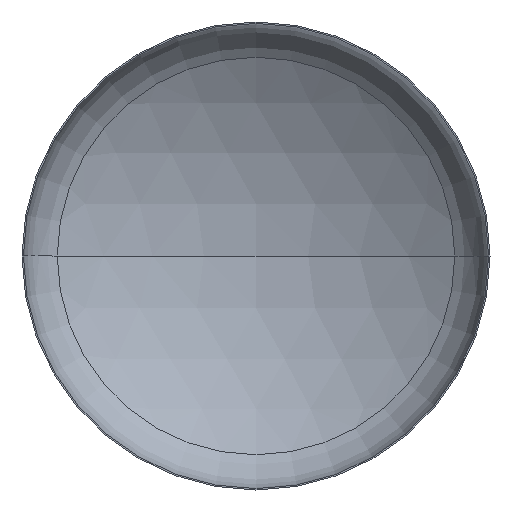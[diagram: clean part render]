
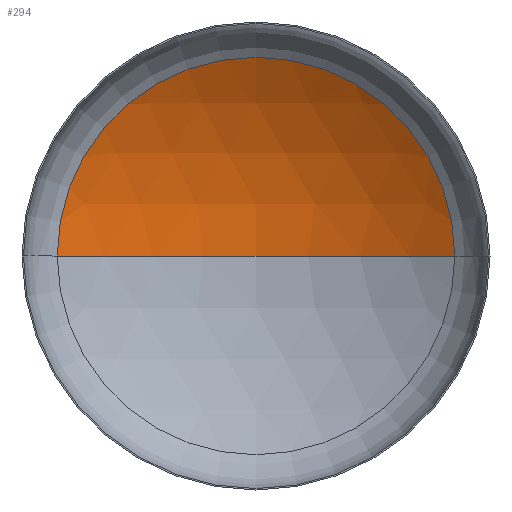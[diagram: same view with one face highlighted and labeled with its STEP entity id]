
A CAD part, front view. The second image highlights one B-rep face of the part: STEP entity #294.
In plain terms, the highlighted spherical face has radius 4800 mm.
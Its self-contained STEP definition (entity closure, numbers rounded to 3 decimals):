
#6 = DIRECTION ( 'NONE',  ( 0., 0., -1. ) ) ;
#11 = CARTESIAN_POINT ( 'NONE',  ( 0., -3228.957, 0. ) ) ;
#16 = ORIENTED_EDGE ( 'NONE', *, *, #192, .T. ) ;
#18 = VERTEX_POINT ( 'NONE', #332 ) ;
#21 = ORIENTED_EDGE ( 'NONE', *, *, #195, .T. ) ;
#39 = VERTEX_POINT ( 'NONE', #315 ) ;
#49 = ORIENTED_EDGE ( 'NONE', *, *, #198, .F. ) ;
#70 = DIRECTION ( 'NONE',  ( 1., 0., 0. ) ) ;
#76 = DIRECTION ( 'NONE',  ( 0., -1., 0. ) ) ;
#78 = AXIS2_PLACEMENT_3D ( 'NONE', #209, #211, #288 ) ;
#82 = EDGE_LOOP ( 'NONE', ( #49, #21, #16 ) ) ;
#84 = VERTEX_POINT ( 'NONE', #247 ) ;
#94 = CARTESIAN_POINT ( 'NONE',  ( 0., 838.912, 0. ) ) ;
#100 = DIRECTION ( 'NONE',  ( 1., 0., 0. ) ) ;
#107 = DIRECTION ( 'NONE',  ( -1., 0., 0. ) ) ;
#125 = SPHERICAL_SURFACE ( 'NONE', #78, 4800. ) ;
#129 = AXIS2_PLACEMENT_3D ( 'NONE', #252, #284, #100 ) ;
#132 = AXIS2_PLACEMENT_3D ( 'NONE', #11, #6, #107 ) ;
#134 = AXIS2_PLACEMENT_3D ( 'NONE', #94, #76, #70 ) ;
#168 = CIRCLE ( 'NONE', #129, 4800. ) ;
#192 = EDGE_CURVE ( 'NONE', #39, #84, #305, .T. ) ;
#195 = EDGE_CURVE ( 'NONE', #18, #39, #410, .T. ) ;
#198 = EDGE_CURVE ( 'NONE', #18, #84, #168, .T. ) ;
#209 = CARTESIAN_POINT ( 'NONE',  ( 0., -3228.957, 0. ) ) ;
#211 = DIRECTION ( 'NONE',  ( 0., 0., -1. ) ) ;
#247 = CARTESIAN_POINT ( 'NONE',  ( -2548.026, 838.912, 0. ) ) ;
#252 = CARTESIAN_POINT ( 'NONE',  ( 0., -3228.957, 0. ) ) ;
#279 = FACE_OUTER_BOUND ( 'NONE', #82, .T. ) ;
#284 = DIRECTION ( 'NONE',  ( 0., 0., 1. ) ) ;
#288 = DIRECTION ( 'NONE',  ( -1., 0., 0. ) ) ;
#294 = ADVANCED_FACE ( 'NONE', ( #279 ), #125, .F. ) ;
#305 = CIRCLE ( 'NONE', #134, 2548.026 ) ;
#315 = CARTESIAN_POINT ( 'NONE',  ( 2548.026, 838.912, 0. ) ) ;
#332 = CARTESIAN_POINT ( 'NONE',  ( 0., 1571.043, 0. ) ) ;
#410 = CIRCLE ( 'NONE', #132, 4800. ) ;
